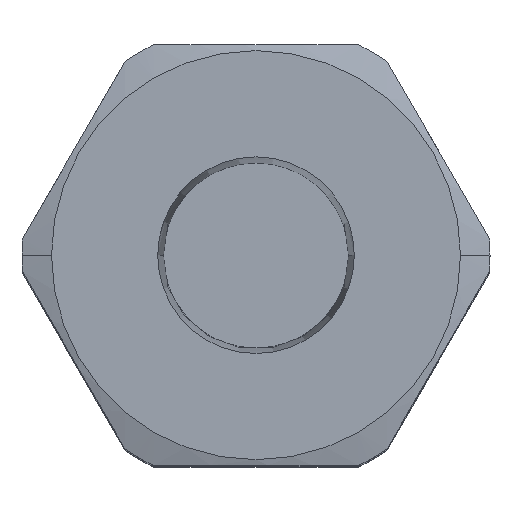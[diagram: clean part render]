
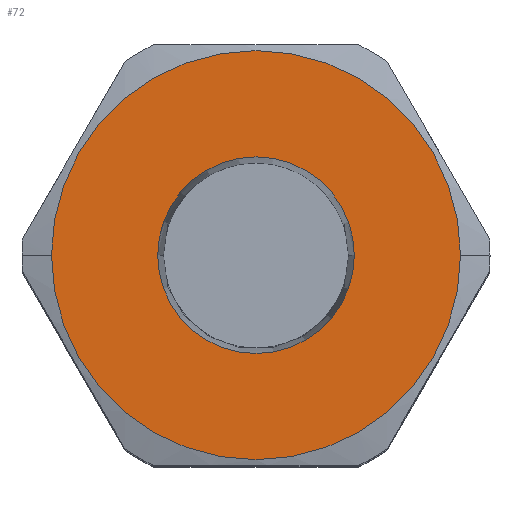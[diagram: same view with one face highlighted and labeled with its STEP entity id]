
A CAD part, top view. The second image highlights one B-rep face of the part: STEP entity #72.
In plain terms, the highlighted planar face has unit normal (0, 0, 1).
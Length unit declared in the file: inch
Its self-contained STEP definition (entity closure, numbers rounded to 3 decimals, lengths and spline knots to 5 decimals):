
#72 = ADVANCED_FACE ( 'NONE', ( #1362, #1363 ), #1364, .T. ) ;
#111 = EDGE_CURVE ( 'NONE', #552, #521, #370, .T. ) ;
#118 = EDGE_CURVE ( 'NONE', #503, #505, #367, .T. ) ;
#180 = AXIS2_PLACEMENT_3D ( 'NONE', #1168, #1169, #1170 ) ;
#182 = CIRCLE ( 'NONE', #180, 0.48625 ) ;
#224 = CARTESIAN_POINT ( 'NONE',  ( 0., 0., 2.25 ) ) ;
#225 = DIRECTION ( 'NONE',  ( 0., 0., -1. ) ) ;
#226 = DIRECTION ( 'NONE',  ( -1., 0., 0. ) ) ;
#261 = CARTESIAN_POINT ( 'NONE',  ( 0., 0., 2.25 ) ) ;
#262 = DIRECTION ( 'NONE',  ( 0., 0., 1. ) ) ;
#263 = DIRECTION ( 'NONE',  ( 1., 0., 0. ) ) ;
#286 = CARTESIAN_POINT ( 'NONE',  ( -0.48625, 0., 2.25 ) ) ;
#291 = CARTESIAN_POINT ( 'NONE',  ( 0.2337, 0., 2.25 ) ) ;
#298 = CARTESIAN_POINT ( 'NONE',  ( -0.2337, 0., 2.25 ) ) ;
#307 = CARTESIAN_POINT ( 'NONE',  ( 0.48625, 0., 2.25 ) ) ;
#341 = AXIS2_PLACEMENT_3D ( 'NONE', #1115, #1116, #1117 ) ;
#359 = CIRCLE ( 'NONE', #341, 0.2337 ) ;
#367 = CIRCLE ( 'NONE', #369, 0.2337 ) ;
#368 = AXIS2_PLACEMENT_3D ( 'NONE', #224, #225, #226 ) ;
#369 = AXIS2_PLACEMENT_3D ( 'NONE', #261, #262, #263 ) ;
#370 = CIRCLE ( 'NONE', #368, 0.48625 ) ;
#442 = AXIS2_PLACEMENT_3D ( 'NONE', #1359, #1365, #1366 ) ;
#502 = EDGE_LOOP ( 'NONE', ( #1291, #1277 ) ) ;
#503 = VERTEX_POINT ( 'NONE', #291 ) ;
#505 = VERTEX_POINT ( 'NONE', #298 ) ;
#521 = VERTEX_POINT ( 'NONE', #286 ) ;
#524 = EDGE_LOOP ( 'NONE', ( #1282, #1289 ) ) ;
#552 = VERTEX_POINT ( 'NONE', #307 ) ;
#1115 = CARTESIAN_POINT ( 'NONE',  ( 0., 0., 2.25 ) ) ;
#1116 = DIRECTION ( 'NONE',  ( 0., 0., 1. ) ) ;
#1117 = DIRECTION ( 'NONE',  ( 1., 0., 0. ) ) ;
#1168 = CARTESIAN_POINT ( 'NONE',  ( 0., 0., 2.25 ) ) ;
#1169 = DIRECTION ( 'NONE',  ( 0., 0., -1. ) ) ;
#1170 = DIRECTION ( 'NONE',  ( -1., 0., 0. ) ) ;
#1205 = EDGE_CURVE ( 'NONE', #505, #503, #359, .T. ) ;
#1220 = EDGE_CURVE ( 'NONE', #521, #552, #182, .T. ) ;
#1277 = ORIENTED_EDGE ( 'NONE', *, *, #111, .F. ) ;
#1282 = ORIENTED_EDGE ( 'NONE', *, *, #118, .F. ) ;
#1289 = ORIENTED_EDGE ( 'NONE', *, *, #1205, .F. ) ;
#1291 = ORIENTED_EDGE ( 'NONE', *, *, #1220, .F. ) ;
#1359 = CARTESIAN_POINT ( 'NONE',  ( 0.57735, 0., 2.25 ) ) ;
#1362 = FACE_BOUND ( 'NONE', #524, .T. ) ;
#1363 = FACE_OUTER_BOUND ( 'NONE', #502, .T. ) ;
#1364 = PLANE ( 'NONE',  #442 ) ;
#1365 = DIRECTION ( 'NONE',  ( 0., 0., 1. ) ) ;
#1366 = DIRECTION ( 'NONE',  ( 1., 0., 0. ) ) ;
